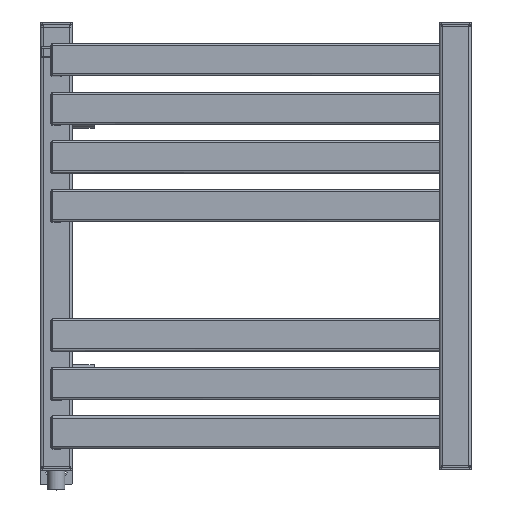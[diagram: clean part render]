
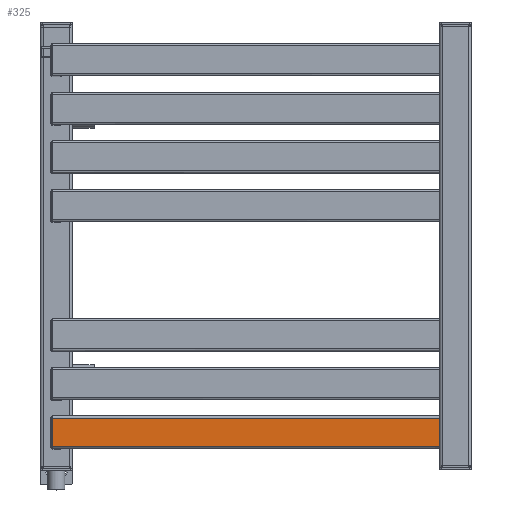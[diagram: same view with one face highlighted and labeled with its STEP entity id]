
A CAD part, top view. The second image highlights one B-rep face of the part: STEP entity #325.
In plain terms, the highlighted planar face has unit normal (0, 0, 1) as drawn and (0, 0, -1) by its records, which use the part's own axes.
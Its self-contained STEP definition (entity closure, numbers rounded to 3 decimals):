
#325 = ADVANCED_FACE( '', ( #702 ), #703, .T. );
#702 = FACE_OUTER_BOUND( '', #1161, .T. );
#703 = PLANE( '', #1162 );
#1161 = EDGE_LOOP( '', ( #2009, #2010, #2011, #2012 ) );
#1162 = AXIS2_PLACEMENT_3D( '', #2013, #2014, #2015 );
#2009 = ORIENTED_EDGE( '', *, *, #2889, .F. );
#2010 = ORIENTED_EDGE( '', *, *, #2890, .T. );
#2011 = ORIENTED_EDGE( '', *, *, #2891, .T. );
#2012 = ORIENTED_EDGE( '', *, *, #2892, .T. );
#2013 = CARTESIAN_POINT( '', ( -15., 389.28, -5. ) );
#2014 = DIRECTION( '', ( 0., 0., -1. ) );
#2015 = DIRECTION( '', ( -1., 0., 0. ) );
#2889 = EDGE_CURVE( '', #3540, #3541, #3542, .T. );
#2890 = EDGE_CURVE( '', #3540, #3543, #3544, .F. );
#2891 = EDGE_CURVE( '', #3543, #3545, #3546, .T. );
#2892 = EDGE_CURVE( '', #3545, #3541, #3547, .T. );
#3540 = VERTEX_POINT( '', #4405 );
#3541 = VERTEX_POINT( '', #4406 );
#3542 = LINE( '', #4407, #4408 );
#3543 = VERTEX_POINT( '', #4409 );
#3544 = LINE( '', #4410, #4411 );
#3545 = VERTEX_POINT( '', #4412 );
#3546 = LINE( '', #4413, #4414 );
#3547 = LINE( '', #4415, #4416 );
#4405 = CARTESIAN_POINT( '', ( -13., 25., -5. ) );
#4406 = CARTESIAN_POINT( '', ( 13., 25., -5. ) );
#4407 = CARTESIAN_POINT( '', ( -15., 25., -5. ) );
#4408 = VECTOR( '', #5056, 1000. );
#4409 = CARTESIAN_POINT( '', ( -13., 389.28, -5. ) );
#4410 = CARTESIAN_POINT( '', ( -13., 389.28, -5. ) );
#4411 = VECTOR( '', #5057, 1000. );
#4412 = CARTESIAN_POINT( '', ( 13., 389.28, -5. ) );
#4413 = CARTESIAN_POINT( '', ( -15., 389.28, -5. ) );
#4414 = VECTOR( '', #5058, 1000. );
#4415 = CARTESIAN_POINT( '', ( 13., 389.28, -5. ) );
#4416 = VECTOR( '', #5059, 1000. );
#5056 = DIRECTION( '', ( 1., 0., 0. ) );
#5057 = DIRECTION( '', ( 0., -1., 0. ) );
#5058 = DIRECTION( '', ( 1., 0., 0. ) );
#5059 = DIRECTION( '', ( 0., -1., 0. ) );
